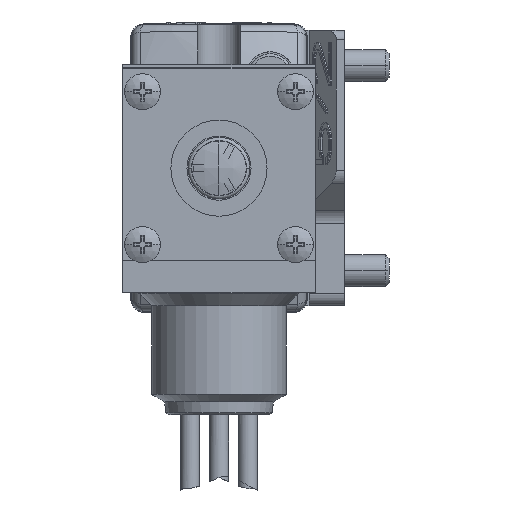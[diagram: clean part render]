
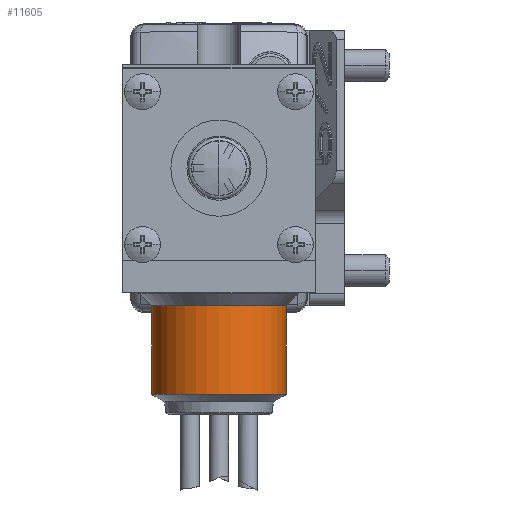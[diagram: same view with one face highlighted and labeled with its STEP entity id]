
A CAD part, left-side view. The second image highlights one B-rep face of the part: STEP entity #11605.
In plain terms, the highlighted cylindrical face has radius 10.5 mm (diameter 21 mm), a partial arc.
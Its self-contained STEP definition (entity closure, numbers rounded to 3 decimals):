
#1732 = CARTESIAN_POINT ( 'NONE',  ( -77., 0., -35.572 ) ) ;
#3181 = AXIS2_PLACEMENT_3D ( 'NONE', #29302, #17509, #7893 ) ;
#3261 = VERTEX_POINT ( 'NONE', #31494 ) ;
#3763 = EDGE_LOOP ( 'NONE', ( #4175, #28037, #8313, #4025 ) ) ;
#4025 = ORIENTED_EDGE ( 'NONE', *, *, #31302, .T. ) ;
#4175 = ORIENTED_EDGE ( 'NONE', *, *, #27898, .T. ) ;
#4220 = CARTESIAN_POINT ( 'NONE',  ( -77., -10.5, -35.295 ) ) ;
#5275 = FACE_OUTER_BOUND ( 'NONE', #3763, .T. ) ;
#7647 = AXIS2_PLACEMENT_3D ( 'NONE', #25432, #19532, #7941 ) ;
#7893 = DIRECTION ( 'NONE',  ( 0., 1., 0. ) ) ;
#7941 = DIRECTION ( 'NONE',  ( 0., 1., 0. ) ) ;
#8313 = ORIENTED_EDGE ( 'NONE', *, *, #23673, .F. ) ;
#8561 = VERTEX_POINT ( 'NONE', #36728 ) ;
#8816 = CARTESIAN_POINT ( 'NONE',  ( -77., 10.5, -21.45 ) ) ;
#11399 = CARTESIAN_POINT ( 'NONE',  ( -77., 10.5, -21.45 ) ) ;
#11605 = ADVANCED_FACE ( 'NONE', ( #5275 ), #25512, .T. ) ;
#13248 = EDGE_CURVE ( 'NONE', #15451, #8561, #13646, .T. ) ;
#13646 = LINE ( 'NONE', #4220, #27893 ) ;
#15451 = VERTEX_POINT ( 'NONE', #26450 ) ;
#16435 = CIRCLE ( 'NONE', #7647, 10.5 ) ;
#16480 = DIRECTION ( 'NONE',  ( 0., 0., 1. ) ) ;
#16867 = DIRECTION ( 'NONE',  ( 0., -1., 0. ) ) ;
#17331 = LINE ( 'NONE', #11399, #38488 ) ;
#17509 = DIRECTION ( 'NONE',  ( 0., 0., 1. ) ) ;
#17757 = AXIS2_PLACEMENT_3D ( 'NONE', #1732, #16480, #16867 ) ;
#19532 = DIRECTION ( 'NONE',  ( 0., 0., 1. ) ) ;
#20146 = CIRCLE ( 'NONE', #3181, 10.5 ) ;
#21904 = DIRECTION ( 'NONE',  ( 0., 0., 1. ) ) ;
#22809 = VERTEX_POINT ( 'NONE', #8816 ) ;
#23673 = EDGE_CURVE ( 'NONE', #22809, #8561, #20146, .T. ) ;
#25432 = CARTESIAN_POINT ( 'NONE',  ( -77., 0., -35.295 ) ) ;
#25512 = CYLINDRICAL_SURFACE ( 'NONE', #17757, 10.5 ) ;
#26450 = CARTESIAN_POINT ( 'NONE',  ( -77., -10.5, -35.295 ) ) ;
#27893 = VECTOR ( 'NONE', #21904, 1000. ) ;
#27898 = EDGE_CURVE ( 'NONE', #3261, #15451, #16435, .T. ) ;
#28037 = ORIENTED_EDGE ( 'NONE', *, *, #13248, .T. ) ;
#29302 = CARTESIAN_POINT ( 'NONE',  ( -77., 0., -21.45 ) ) ;
#29308 = DIRECTION ( 'NONE',  ( 0., 0., -1. ) ) ;
#31302 = EDGE_CURVE ( 'NONE', #22809, #3261, #17331, .T. ) ;
#31494 = CARTESIAN_POINT ( 'NONE',  ( -77., 10.5, -35.295 ) ) ;
#36728 = CARTESIAN_POINT ( 'NONE',  ( -77., -10.5, -21.45 ) ) ;
#38488 = VECTOR ( 'NONE', #29308, 1000. ) ;
